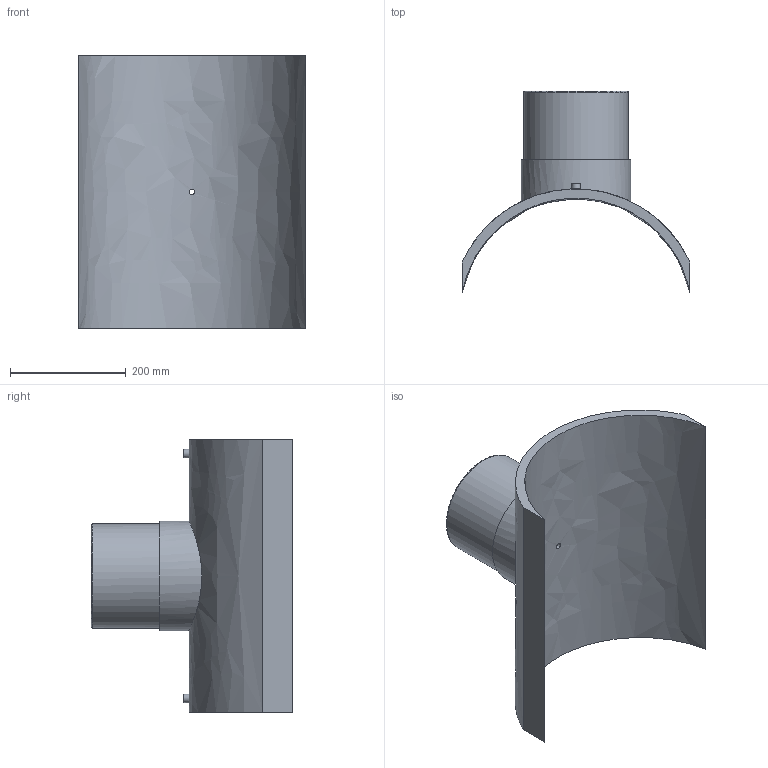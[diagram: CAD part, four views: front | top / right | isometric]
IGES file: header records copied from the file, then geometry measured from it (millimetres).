
Global section: file name: 495803400180T; native system: Autodesk Inventor 2019; preprocessor: unknown; author: KIM; date: 20240404.115022; units: millimetre
Bounding box: 393 x 347.75 x 470 mm (x, y, z)
Volume: 5681496.8 mm3; surface area: 748753.6 mm2
Topology: 1 solids, 1 shells, 29 faces, 60 edges, 43 vertices
Faces by surface type: bspline 29
